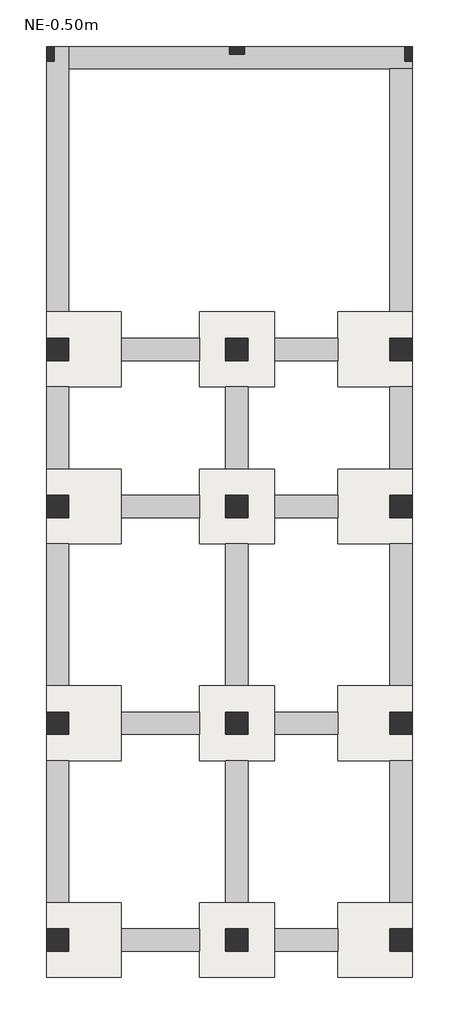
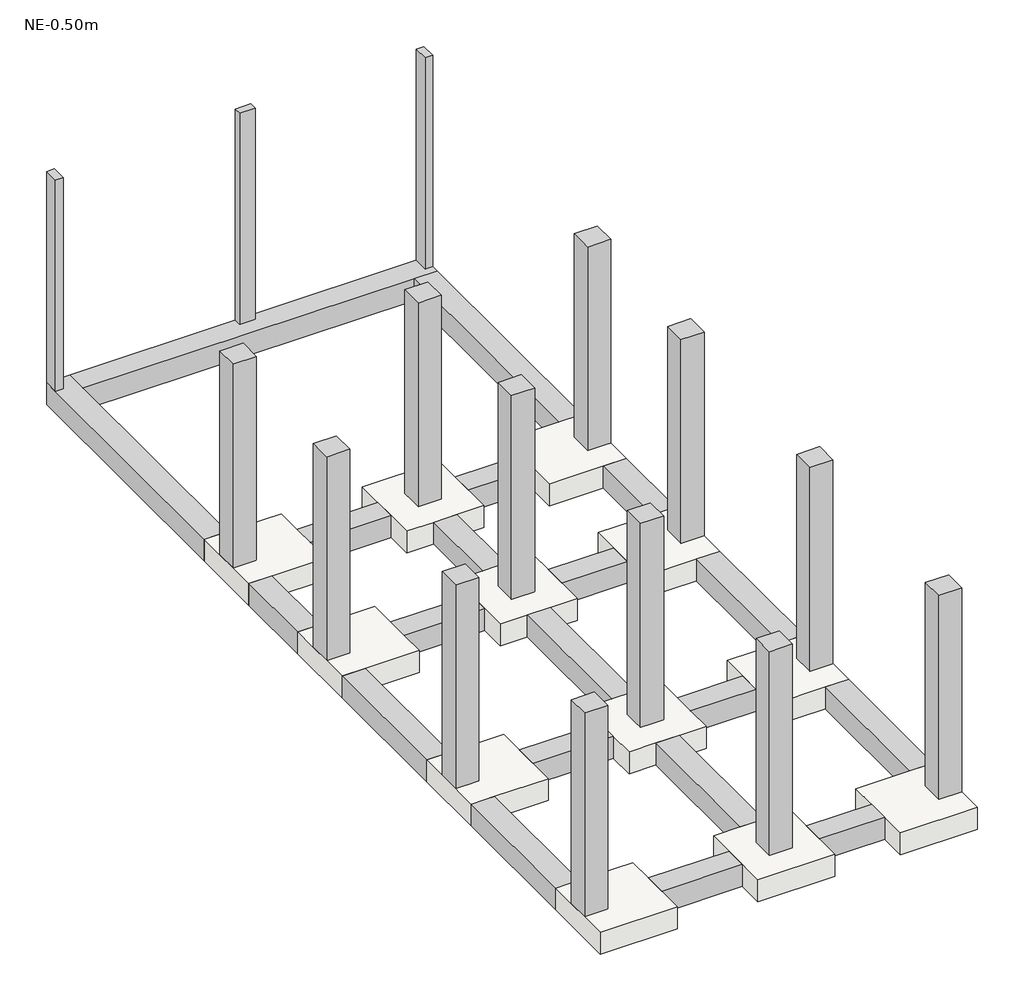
# One storey: 20 beams, 15 columns, 12 slabs.
"""IFC4 building model written with IfcOpenShell, lengths in millimetres."""

from ifc_helpers import new_model, si_unit, frame, origin, place, context, project, spatial, polyline, outline, extrude, faceted_brep, element, save

model = new_model("IFC4")

# Units and contexts
model_context = context("Model", 3, world=origin())
ifc_project = project(units=[si_unit("LENGTHUNIT", "METRE", prefix="MILLI")], contexts=[model_context])

# Site, building, storey
site = spatial("IfcSite", under=ifc_project)
building = spatial("IfcBuilding", under=site)
storey = spatial("IfcBuildingStorey", under=building, Name="NE-0.50m", Elevation=-500.0)

# Beams
placement = place(None, origin())
element("IfcBeam", 1, ObjectType="Hormigón-Viga rectangular : VC (0.30x0.30m)", at=placement, inside=storey, context=model_context, shape_type="SweptSolid", body=[
    extrude(outline(polyline([(1352.3188918, 412.8132138), (1652.3188918, 412.8132138), (1652.3188918, -687.1867862), (1352.3188918, -687.1867862), (1352.3188918, 412.8132138)])), frame((0.0, 0.0, -800.0), z_axis=(0.0, 0.0, 1.0), x_axis=(1.0, 0.0, 0.0)), (0.0, 0.0, 1.0), 300.0),
])
element("IfcBeam", 2, ObjectType="Hormigón-Viga rectangular : VC (0.30x0.30m)", at=placement, inside=storey, context=model_context, shape_type="SweptSolid", body=[
    extrude(outline(polyline([(1652.3188918, -3587.1867862), (1352.3188918, -3587.1867862), (1352.3188918, -1687.1867862), (1652.3188918, -1687.1867862), (1652.3188918, -3587.1867862)])), frame((0.0, 0.0, -800.0), z_axis=(0.0, 0.0, 1.0), x_axis=(1.0, 0.0, 0.0)), (0.0, 0.0, 1.0), 300.0),
])
element("IfcBeam", 3, ObjectType="Hormigón-Viga rectangular : VC (0.30x0.30m)", at=placement, inside=storey, context=model_context, shape_type="SweptSolid", body=[
    extrude(outline(polyline([(1652.3188918, -6487.1867862), (1352.3188918, -6487.1867862), (1352.3188918, -4587.1867862), (1652.3188918, -4587.1867862), (1652.3188918, -6487.1867862)])), frame((0.0, 0.0, -800.0), z_axis=(0.0, 0.0, 1.0), x_axis=(1.0, 0.0, 0.0)), (0.0, 0.0, 1.0), 300.0),
])
element("IfcBeam", 4, ObjectType="Hormigón-Viga rectangular : VC (0.30x0.30m)", at=placement, inside=storey, context=model_context, shape_type="SweptSolid", body=[
    extrude(outline(polyline([(-1047.6811082, 412.8132138), (-747.6811082, 412.8132138), (-747.6811082, -687.1867862), (-1047.6811082, -687.1867862), (-1047.6811082, 412.8132138)])), frame((0.0, 0.0, -800.0), z_axis=(0.0, 0.0, 1.0), x_axis=(1.0, 0.0, 0.0)), (0.0, 0.0, 1.0), 300.0),
])
element("IfcBeam", 5, ObjectType="Hormigón-Viga rectangular : VC (0.30x0.30m)", at=placement, inside=storey, context=model_context, shape_type="SweptSolid", body=[
    extrude(outline(polyline([(-747.6811082, -3587.1867862), (-1047.6811082, -3587.1867862), (-1047.6811082, -1687.1867862), (-747.6811082, -1687.1867862), (-747.6811082, -3587.1867862)])), frame((0.0, 0.0, -800.0), z_axis=(0.0, 0.0, 1.0), x_axis=(1.0, 0.0, 0.0)), (0.0, 0.0, 1.0), 300.0),
])
element("IfcBeam", 6, ObjectType="Hormigón-Viga rectangular : VC (0.30x0.30m)", at=placement, inside=storey, context=model_context, shape_type="SweptSolid", body=[
    extrude(outline(polyline([(-747.6811082, -6487.1867862), (-1047.6811082, -6487.1867862), (-1047.6811082, -4587.1867862), (-747.6811082, -4587.1867862), (-747.6811082, -6487.1867862)])), frame((0.0, 0.0, -800.0), z_axis=(0.0, 0.0, 1.0), x_axis=(1.0, 0.0, 0.0)), (0.0, 0.0, 1.0), 300.0),
])
element("IfcBeam", 7, ObjectType="Hormigón-Viga rectangular : VC (0.30x0.30m)", at=placement, inside=storey, context=model_context, shape_type="SweptSolid", body=[
    extrude(outline(polyline([(3852.3188918, -687.1867862), (3552.3188918, -687.1867862), (3552.3188918, 412.8132138), (3852.3188918, 412.8132138), (3852.3188918, -687.1867862)])), frame((0.0, 0.0, -800.0), z_axis=(0.0, 0.0, 1.0), x_axis=(1.0, 0.0, 0.0)), (0.0, 0.0, 1.0), 300.0),
])
element("IfcBeam", 8, ObjectType="Hormigón-Viga rectangular : VC (0.30x0.30m)", at=placement, inside=storey, context=model_context, shape_type="SweptSolid", body=[
    extrude(outline(polyline([(3852.3188918, -3587.1867862), (3552.3188918, -3587.1867862), (3552.3188918, -1687.1867862), (3852.3188918, -1687.1867862), (3852.3188918, -3587.1867862)])), frame((0.0, 0.0, -800.0), z_axis=(0.0, 0.0, 1.0), x_axis=(1.0, 0.0, 0.0)), (0.0, 0.0, 1.0), 300.0),
])
element("IfcBeam", 9, ObjectType="Hormigón-Viga rectangular : VC (0.30x0.30m)", at=placement, inside=storey, context=model_context, shape_type="SweptSolid", body=[
    extrude(outline(polyline([(3852.3188918, -6487.1867862), (3552.3188918, -6487.1867862), (3552.3188918, -4587.1867862), (3852.3188918, -4587.1867862), (3852.3188918, -6487.1867862)])), frame((0.0, 0.0, -800.0), z_axis=(0.0, 0.0, 1.0), x_axis=(1.0, 0.0, 0.0)), (0.0, 0.0, 1.0), 300.0),
])
element("IfcBeam", 10, ObjectType="Hormigón-Viga rectangular : VC (0.30x0.30m)", at=placement, inside=storey, context=model_context, shape_type="SweptSolid", body=[
    extrude(outline(polyline([(-47.6811082, -7137.1867862), (-47.6811082, -6837.1867862), (1002.3188918, -6837.1867862), (1002.3188918, -7137.1867862), (-47.6811082, -7137.1867862)])), frame((0.0, 0.0, -800.0), z_axis=(0.0, 0.0, 1.0), x_axis=(1.0, 0.0, 0.0)), (0.0, 0.0, 1.0), 300.0),
])
element("IfcBeam", 11, ObjectType="Hormigón-Viga rectangular : VC (0.30x0.30m)", at=placement, inside=storey, context=model_context, shape_type="SweptSolid", body=[
    extrude(outline(polyline([(2002.3188918, -7137.1867862), (2002.3188918, -6837.1867862), (2852.3188918, -6837.1867862), (2852.3188918, -7137.1867862), (2002.3188918, -7137.1867862)])), frame((0.0, 0.0, -800.0), z_axis=(0.0, 0.0, 1.0), x_axis=(1.0, 0.0, 0.0)), (0.0, 0.0, 1.0), 300.0),
])
element("IfcBeam", 12, ObjectType="Hormigón-Viga rectangular : VC (0.30x0.30m)", at=placement, inside=storey, context=model_context, shape_type="SweptSolid", body=[
    extrude(outline(polyline([(-47.6811082, -4237.1867862), (-47.6811082, -3937.1867862), (1002.3188918, -3937.1867862), (1002.3188918, -4237.1867862), (-47.6811082, -4237.1867862)])), frame((0.0, 0.0, -800.0), z_axis=(0.0, 0.0, 1.0), x_axis=(1.0, 0.0, 0.0)), (0.0, 0.0, 1.0), 300.0),
])
element("IfcBeam", 13, ObjectType="Hormigón-Viga rectangular : VC (0.30x0.30m)", at=placement, inside=storey, context=model_context, shape_type="SweptSolid", body=[
    extrude(outline(polyline([(2002.3188918, -4237.1867862), (2002.3188918, -3937.1867862), (2852.3188918, -3937.1867862), (2852.3188918, -4237.1867862), (2002.3188918, -4237.1867862)])), frame((0.0, 0.0, -800.0), z_axis=(0.0, 0.0, 1.0), x_axis=(1.0, 0.0, 0.0)), (0.0, 0.0, 1.0), 300.0),
])
element("IfcBeam", 14, ObjectType="Hormigón-Viga rectangular : VC (0.30x0.30m)", at=placement, inside=storey, context=model_context, shape_type="SweptSolid", body=[
    extrude(outline(polyline([(-47.6811082, -1337.1867862), (-47.6811082, -1037.1867862), (1002.3188918, -1037.1867862), (1002.3188918, -1337.1867862), (-47.6811082, -1337.1867862)])), frame((0.0, 0.0, -800.0), z_axis=(0.0, 0.0, 1.0), x_axis=(1.0, 0.0, 0.0)), (0.0, 0.0, 1.0), 300.0),
])
element("IfcBeam", 15, ObjectType="Hormigón-Viga rectangular : VC (0.30x0.30m)", at=placement, inside=storey, context=model_context, shape_type="SweptSolid", body=[
    extrude(outline(polyline([(2852.3188918, -1037.1867862), (2852.3188918, -1337.1867862), (2002.3188918, -1337.1867862), (2002.3188918, -1037.1867862), (2852.3188918, -1037.1867862)])), frame((0.0, 0.0, -800.0), z_axis=(0.0, 0.0, 1.0), x_axis=(1.0, 0.0, 0.0)), (0.0, 0.0, 1.0), 300.0),
])
element("IfcBeam", 16, ObjectType="Hormigón-Viga rectangular : VC (0.30x0.30m)", at=placement, inside=storey, context=model_context, shape_type="SweptSolid", body=[
    extrude(outline(polyline([(1002.3188918, 1062.8132138), (1002.3188918, 762.8132138), (-47.6811082, 762.8132138), (-47.6811082, 1062.8132138), (1002.3188918, 1062.8132138)])), frame((0.0, 0.0, -800.0), z_axis=(0.0, 0.0, 1.0), x_axis=(1.0, 0.0, 0.0)), (0.0, 0.0, 1.0), 300.0),
])
element("IfcBeam", 17, ObjectType="Hormigón-Viga rectangular : VC (0.30x0.30m)", at=placement, inside=storey, context=model_context, shape_type="SweptSolid", body=[
    extrude(outline(polyline([(2852.3188918, 1062.8132138), (2852.3188918, 762.8132138), (2002.3188918, 762.8132138), (2002.3188918, 1062.8132138), (2852.3188918, 1062.8132138)])), frame((0.0, 0.0, -800.0), z_axis=(0.0, 0.0, 1.0), x_axis=(1.0, 0.0, 0.0)), (0.0, 0.0, 1.0), 300.0),
])
element("IfcBeam", 18, ObjectType="Hormigón-Viga rectangular : VC (0.30x0.30m)", at=placement, inside=storey, context=model_context, shape_type="Brep", body=[
    faceted_brep([(-747.6811082, 4962.8132138, -500.0), (-947.6811082, 4962.8132138, -500.0), (-1047.6811082, 4962.8132138, -500.0), (-1047.6811082, 4762.8132138, -500.0), (-1047.6811082, 1412.8132138, -500.0), (-747.6811082, 1412.8132138, -500.0), (-747.6811082, 4662.8132138, -500.0), (-747.6811082, 4962.8132138, -800.0), (-747.6811082, 1412.8132138, -800.0), (-747.6811082, 4662.8132138, -800.0), (-1047.6811082, 4962.8132138, -800.0), (-1047.6811082, 1412.8132138, -800.0)], [[[0, 1, 2, 3, 4, 5, 6]], [[7, 0, 6, 5, 8, 9]], [[10, 7, 9, 8, 11]], [[2, 10, 11, 4, 3]], [[5, 4, 11, 8]], [[2, 1, 0, 7, 10]]]),
])
element("IfcBeam", 19, ObjectType="Hormigón-Viga rectangular : VC (0.30x0.30m)", at=placement, inside=storey, context=model_context, shape_type="Brep", body=[
    faceted_brep([(3852.3188918, 4662.8132138, -500.0), (3852.3188918, 4762.8132138, -500.0), (3852.3188918, 4962.8132138, -500.0), (3752.3188918, 4962.8132138, -500.0), (1602.3188918, 4962.8132138, -500.0), (1402.3188918, 4962.8132138, -500.0), (-747.6811082, 4962.8132138, -500.0), (-747.6811082, 4662.8132138, -500.0), (3552.3188918, 4662.8132138, -500.0), (3852.3188918, 4662.8132138, -800.0), (-747.6811082, 4662.8132138, -800.0), (3552.3188918, 4662.8132138, -800.0), (3852.3188918, 4962.8132138, -800.0), (-747.6811082, 4962.8132138, -800.0)], [[[0, 1, 2, 3, 4, 5, 6, 7, 8]], [[9, 0, 8, 7, 10, 11]], [[12, 9, 11, 10, 13]], [[2, 12, 13, 6, 5, 4, 3]], [[7, 6, 13, 10]], [[2, 1, 0, 9, 12]]]),
])
element("IfcBeam", 20, ObjectType="Hormigón-Viga rectangular : VC (0.30x0.30m)", at=placement, inside=storey, context=model_context, shape_type="SweptSolid", body=[
    extrude(outline(polyline([(3552.3188918, 4662.8132138), (3852.3188918, 4662.8132138), (3852.3188918, 1412.8132138), (3552.3188918, 1412.8132138), (3552.3188918, 4662.8132138)])), frame((0.0, 0.0, -800.0), z_axis=(0.0, 0.0, 1.0), x_axis=(1.0, 0.0, 0.0)), (0.0, 0.0, 1.0), 300.0),
])

# Columns
element("IfcColumn", 21, ObjectType="Hormigón-Rectangular-Pilar : C1 (0.30x0.30m)", at=placement, inside=storey, context=model_context, shape_type="Brep", body=[
    faceted_brep([(1652.3188918, 1062.8132138, -500.0), (1652.3188918, 762.8132138, -500.0), (1352.3188918, 762.8132138, -500.0), (1352.3188918, 1062.8132138, -500.0), (1652.3188918, 1062.8132138, -100.0), (1652.3188918, 1062.8132138, 0.0), (1652.3188918, 1062.8132138, 2300.0), (1652.3188918, 762.8132138, 2300.0), (1652.3188918, 762.8132138, 0.0), (1652.3188918, 762.8132138, -100.0), (1352.3188918, 762.8132138, 2300.0), (1352.3188918, 762.8132138, 0.0), (1352.3188918, 762.8132138, -100.0), (1352.3188918, 1062.8132138, 2300.0), (1352.3188918, 1062.8132138, 0.0), (1352.3188918, 1062.8132138, -100.0)], [[[0, 1, 2, 3]], [[1, 0, 4, 5, 6, 7, 8, 9]], [[2, 1, 9, 8, 7, 10, 11, 12]], [[3, 2, 12, 11, 10, 13, 14, 15]], [[0, 3, 15, 14, 13, 6, 5, 4]], [[7, 6, 13, 10]]]),
])
element("IfcColumn", 22, ObjectType="Hormigón-Rectangular-Pilar : C1 (0.30x0.30m)", at=placement, inside=storey, context=model_context, shape_type="Brep", body=[
    faceted_brep([(3852.3188918, 1062.8132138, -500.0), (3852.3188918, 762.8132138, -500.0), (3552.3188918, 762.8132138, -500.0), (3552.3188918, 1062.8132138, -500.0), (3852.3188918, 1062.8132138, -100.0), (3852.3188918, 1062.8132138, 0.0), (3852.3188918, 1062.8132138, 2300.0), (3852.3188918, 762.8132138, 2300.0), (3852.3188918, 762.8132138, 0.0), (3852.3188918, 762.8132138, -100.0), (3552.3188918, 762.8132138, 2300.0), (3552.3188918, 762.8132138, 0.0), (3552.3188918, 762.8132138, -100.0), (3552.3188918, 1062.8132138, 2300.0), (3552.3188918, 1062.8132138, 0.0), (3552.3188918, 1062.8132138, -100.0)], [[[0, 1, 2, 3]], [[1, 0, 4, 5, 6, 7, 8, 9]], [[2, 1, 9, 8, 7, 10, 11, 12]], [[3, 2, 12, 11, 10, 13, 14, 15]], [[0, 3, 15, 14, 13, 6, 5, 4]], [[7, 6, 13, 10]]]),
])
element("IfcColumn", 23, ObjectType="Hormigón-Rectangular-Pilar : C1 (0.30x0.30m)", at=placement, inside=storey, context=model_context, shape_type="Brep", body=[
    faceted_brep([(-747.6811082, 1062.8132138, -500.0), (-747.6811082, 762.8132138, -500.0), (-1047.6811082, 762.8132138, -500.0), (-1047.6811082, 1062.8132138, -500.0), (-747.6811082, 1062.8132138, -100.0), (-747.6811082, 1062.8132138, 0.0), (-747.6811082, 1062.8132138, 2300.0), (-747.6811082, 762.8132138, 2300.0), (-747.6811082, 762.8132138, 0.0), (-747.6811082, 762.8132138, -100.0), (-1047.6811082, 762.8132138, 2300.0), (-1047.6811082, 762.8132138, 0.0), (-1047.6811082, 762.8132138, -100.0), (-1047.6811082, 1062.8132138, 2300.0), (-1047.6811082, 1062.8132138, 0.0), (-1047.6811082, 1062.8132138, -100.0)], [[[0, 1, 2, 3]], [[1, 0, 4, 5, 6, 7, 8, 9]], [[2, 1, 9, 8, 7, 10, 11, 12]], [[3, 2, 12, 11, 10, 13, 14, 15]], [[0, 3, 15, 14, 13, 6, 5, 4]], [[7, 6, 13, 10]]]),
])
element("IfcColumn", 24, ObjectType="Hormigón-Rectangular-Pilar : C1 (0.30x0.30m)", at=placement, inside=storey, context=model_context, shape_type="Brep", body=[
    faceted_brep([(1652.3188918, -1037.1867862, -500.0), (1652.3188918, -1337.1867862, -500.0), (1352.3188918, -1337.1867862, -500.0), (1352.3188918, -1037.1867862, -500.0), (1652.3188918, -1037.1867862, -100.0), (1652.3188918, -1037.1867862, 0.0), (1652.3188918, -1037.1867862, 2300.0), (1652.3188918, -1337.1867862, 2300.0), (1652.3188918, -1337.1867862, 0.0), (1652.3188918, -1337.1867862, -100.0), (1352.3188918, -1337.1867862, 2300.0), (1352.3188918, -1337.1867862, 0.0), (1352.3188918, -1337.1867862, -100.0), (1352.3188918, -1037.1867862, 2300.0), (1352.3188918, -1037.1867862, 0.0), (1352.3188918, -1037.1867862, -100.0)], [[[0, 1, 2, 3]], [[1, 0, 4, 5, 6, 7, 8, 9]], [[2, 1, 9, 8, 7, 10, 11, 12]], [[3, 2, 12, 11, 10, 13, 14, 15]], [[0, 3, 15, 14, 13, 6, 5, 4]], [[7, 6, 13, 10]]]),
])
element("IfcColumn", 25, ObjectType="Hormigón-Rectangular-Pilar : C1 (0.30x0.30m)", at=placement, inside=storey, context=model_context, shape_type="Brep", body=[
    faceted_brep([(3852.3188918, -1037.1867862, -500.0), (3852.3188918, -1337.1867862, -500.0), (3552.3188918, -1337.1867862, -500.0), (3552.3188918, -1037.1867862, -500.0), (3852.3188918, -1037.1867862, -100.0), (3852.3188918, -1037.1867862, 0.0), (3852.3188918, -1037.1867862, 2300.0), (3852.3188918, -1337.1867862, 2300.0), (3852.3188918, -1337.1867862, 0.0), (3852.3188918, -1337.1867862, -100.0), (3552.3188918, -1337.1867862, 2300.0), (3552.3188918, -1337.1867862, 0.0), (3552.3188918, -1337.1867862, -100.0), (3552.3188918, -1037.1867862, 2300.0), (3552.3188918, -1037.1867862, 0.0), (3552.3188918, -1037.1867862, -100.0)], [[[0, 1, 2, 3]], [[1, 0, 4, 5, 6, 7, 8, 9]], [[2, 1, 9, 8, 7, 10, 11, 12]], [[3, 2, 12, 11, 10, 13, 14, 15]], [[0, 3, 15, 14, 13, 6, 5, 4]], [[7, 6, 13, 10]]]),
])
element("IfcColumn", 26, ObjectType="Hormigón-Rectangular-Pilar : C1 (0.30x0.30m)", at=placement, inside=storey, context=model_context, shape_type="Brep", body=[
    faceted_brep([(-747.6811082, -1037.1867862, -500.0), (-747.6811082, -1337.1867862, -500.0), (-1047.6811082, -1337.1867862, -500.0), (-1047.6811082, -1037.1867862, -500.0), (-747.6811082, -1037.1867862, -100.0), (-747.6811082, -1037.1867862, 0.0), (-747.6811082, -1037.1867862, 2300.0), (-747.6811082, -1337.1867862, 2300.0), (-747.6811082, -1337.1867862, 0.0), (-747.6811082, -1337.1867862, -100.0), (-1047.6811082, -1337.1867862, 2300.0), (-1047.6811082, -1337.1867862, 0.0), (-1047.6811082, -1337.1867862, -100.0), (-1047.6811082, -1037.1867862, 2300.0), (-1047.6811082, -1037.1867862, 0.0), (-1047.6811082, -1037.1867862, -100.0)], [[[0, 1, 2, 3]], [[1, 0, 4, 5, 6, 7, 8, 9]], [[2, 1, 9, 8, 7, 10, 11, 12]], [[3, 2, 12, 11, 10, 13, 14, 15]], [[0, 3, 15, 14, 13, 6, 5, 4]], [[7, 6, 13, 10]]]),
])
element("IfcColumn", 27, ObjectType="Hormigón-Rectangular-Pilar : C1 (0.30x0.30m)", at=placement, inside=storey, context=model_context, shape_type="Brep", body=[
    faceted_brep([(1652.3188918, -3937.1867862, -500.0), (1652.3188918, -4237.1867862, -500.0), (1352.3188918, -4237.1867862, -500.0), (1352.3188918, -3937.1867862, -500.0), (1652.3188918, -3937.1867862, -100.0), (1652.3188918, -3937.1867862, 0.0), (1652.3188918, -3937.1867862, 2300.0), (1652.3188918, -4237.1867862, 2300.0), (1652.3188918, -4237.1867862, 0.0), (1652.3188918, -4237.1867862, -100.0), (1352.3188918, -4237.1867862, 2300.0), (1352.3188918, -4237.1867862, 0.0), (1352.3188918, -4237.1867862, -100.0), (1352.3188918, -3937.1867862, 2300.0), (1352.3188918, -3937.1867862, 0.0), (1352.3188918, -3937.1867862, -100.0)], [[[0, 1, 2, 3]], [[1, 0, 4, 5, 6, 7, 8, 9]], [[2, 1, 9, 8, 7, 10, 11, 12]], [[3, 2, 12, 11, 10, 13, 14, 15]], [[0, 3, 15, 14, 13, 6, 5, 4]], [[7, 6, 13, 10]]]),
])
element("IfcColumn", 28, ObjectType="Hormigón-Rectangular-Pilar : C1 (0.30x0.30m)", at=placement, inside=storey, context=model_context, shape_type="Brep", body=[
    faceted_brep([(3852.3188918, -3937.1867862, -500.0), (3852.3188918, -4237.1867862, -500.0), (3552.3188918, -4237.1867862, -500.0), (3552.3188918, -3937.1867862, -500.0), (3852.3188918, -3937.1867862, -100.0), (3852.3188918, -3937.1867862, 0.0), (3852.3188918, -3937.1867862, 2300.0), (3852.3188918, -4237.1867862, 2300.0), (3852.3188918, -4237.1867862, 0.0), (3852.3188918, -4237.1867862, -100.0), (3552.3188918, -4237.1867862, 2300.0), (3552.3188918, -4237.1867862, 0.0), (3552.3188918, -4237.1867862, -100.0), (3552.3188918, -3937.1867862, 2300.0), (3552.3188918, -3937.1867862, 0.0), (3552.3188918, -3937.1867862, -100.0)], [[[0, 1, 2, 3]], [[1, 0, 4, 5, 6, 7, 8, 9]], [[2, 1, 9, 8, 7, 10, 11, 12]], [[3, 2, 12, 11, 10, 13, 14, 15]], [[0, 3, 15, 14, 13, 6, 5, 4]], [[7, 6, 13, 10]]]),
])
element("IfcColumn", 29, ObjectType="Hormigón-Rectangular-Pilar : C1 (0.30x0.30m)", at=placement, inside=storey, context=model_context, shape_type="Brep", body=[
    faceted_brep([(-747.6811082, -3937.1867862, -500.0), (-747.6811082, -4237.1867862, -500.0), (-1047.6811082, -4237.1867862, -500.0), (-1047.6811082, -3937.1867862, -500.0), (-747.6811082, -3937.1867862, -100.0), (-747.6811082, -3937.1867862, 0.0), (-747.6811082, -3937.1867862, 2300.0), (-747.6811082, -4237.1867862, 2300.0), (-747.6811082, -4237.1867862, 0.0), (-747.6811082, -4237.1867862, -100.0), (-1047.6811082, -4237.1867862, 2300.0), (-1047.6811082, -4237.1867862, 0.0), (-1047.6811082, -4237.1867862, -100.0), (-1047.6811082, -3937.1867862, 2300.0), (-1047.6811082, -3937.1867862, 0.0), (-1047.6811082, -3937.1867862, -100.0)], [[[0, 1, 2, 3]], [[1, 0, 4, 5, 6, 7, 8, 9]], [[2, 1, 9, 8, 7, 10, 11, 12]], [[3, 2, 12, 11, 10, 13, 14, 15]], [[0, 3, 15, 14, 13, 6, 5, 4]], [[7, 6, 13, 10]]]),
])
element("IfcColumn", 30, ObjectType="Hormigón-Rectangular-Pilar : C1 (0.30x0.30m)", at=placement, inside=storey, context=model_context, shape_type="Brep", body=[
    faceted_brep([(1652.3188918, -6837.1867862, -500.0), (1652.3188918, -7137.1867862, -500.0), (1352.3188918, -7137.1867862, -500.0), (1352.3188918, -6837.1867862, -500.0), (1652.3188918, -6837.1867862, -100.0), (1652.3188918, -6837.1867862, 0.0), (1652.3188918, -6837.1867862, 2300.0), (1652.3188918, -7137.1867862, 2300.0), (1652.3188918, -7137.1867862, 0.0), (1652.3188918, -7137.1867862, -100.0), (1352.3188918, -7137.1867862, 2300.0), (1352.3188918, -7137.1867862, 0.0), (1352.3188918, -7137.1867862, -100.0), (1352.3188918, -6837.1867862, 2300.0), (1352.3188918, -6837.1867862, 0.0), (1352.3188918, -6837.1867862, -100.0)], [[[0, 1, 2, 3]], [[1, 0, 4, 5, 6, 7, 8, 9]], [[2, 1, 9, 8, 7, 10, 11, 12]], [[3, 2, 12, 11, 10, 13, 14, 15]], [[0, 3, 15, 14, 13, 6, 5, 4]], [[7, 6, 13, 10]]]),
])
element("IfcColumn", 31, ObjectType="Hormigón-Rectangular-Pilar : C1 (0.30x0.30m)", at=placement, inside=storey, context=model_context, shape_type="Brep", body=[
    faceted_brep([(3852.3188918, -6837.1867862, -500.0), (3852.3188918, -7137.1867862, -500.0), (3552.3188918, -7137.1867862, -500.0), (3552.3188918, -6837.1867862, -500.0), (3852.3188918, -6837.1867862, -100.0), (3852.3188918, -6837.1867862, 0.0), (3852.3188918, -6837.1867862, 2300.0), (3852.3188918, -7137.1867862, 2300.0), (3552.3188918, -7137.1867862, 2300.0), (3552.3188918, -7137.1867862, 0.0), (3552.3188918, -7137.1867862, -100.0), (3552.3188918, -6837.1867862, 2300.0), (3552.3188918, -6837.1867862, 0.0), (3552.3188918, -6837.1867862, -100.0)], [[[0, 1, 2, 3]], [[1, 0, 4, 5, 6, 7]], [[2, 1, 7, 8, 9, 10]], [[3, 2, 10, 9, 8, 11, 12, 13]], [[0, 3, 13, 12, 11, 6, 5, 4]], [[7, 6, 11, 8]]]),
])
element("IfcColumn", 32, ObjectType="Hormigón-Rectangular-Pilar : C1 (0.30x0.30m)", at=placement, inside=storey, context=model_context, shape_type="Brep", body=[
    faceted_brep([(-747.6811082, -6837.1867862, -500.0), (-747.6811082, -7137.1867862, -500.0), (-1047.6811082, -7137.1867862, -500.0), (-1047.6811082, -6837.1867862, -500.0), (-747.6811082, -6837.1867862, -100.0), (-747.6811082, -6837.1867862, 0.0), (-747.6811082, -6837.1867862, 2300.0), (-747.6811082, -7137.1867862, 2300.0), (-747.6811082, -7137.1867862, 0.0), (-747.6811082, -7137.1867862, -100.0), (-1047.6811082, -7137.1867862, 2300.0), (-1047.6811082, -6837.1867862, 2300.0), (-1047.6811082, -6837.1867862, 0.0), (-1047.6811082, -6837.1867862, -100.0)], [[[0, 1, 2, 3]], [[1, 0, 4, 5, 6, 7, 8, 9]], [[2, 1, 9, 8, 7, 10]], [[3, 2, 10, 11, 12, 13]], [[0, 3, 13, 12, 11, 6, 5, 4]], [[7, 6, 11, 10]]]),
])
element("IfcColumn", 33, ObjectType="Hormigón-Rectangular-Pilar : C2 (0.10x0.20m)", at=placement, inside=storey, context=model_context, shape_type="Brep", body=[
    faceted_brep([(-947.6811082, 4962.8132138, -500.0), (-947.6811082, 4762.8132138, -500.0), (-1047.6811082, 4762.8132138, -500.0), (-1047.6811082, 4962.8132138, -500.0), (-947.6811082, 4962.8132138, -100.0), (-947.6811082, 4962.8132138, 0.0), (-947.6811082, 4962.8132138, 2400.0), (-947.6811082, 4762.8132138, 2400.0), (-947.6811082, 4762.8132138, 0.0), (-947.6811082, 4762.8132138, -100.0), (-1047.6811082, 4762.8132138, 2400.0), (-1047.6811082, 4762.8132138, 0.0), (-1047.6811082, 4762.8132138, -100.0), (-1047.6811082, 4962.8132138, 2400.0)], [[[0, 1, 2, 3]], [[1, 0, 4, 5, 6, 7, 8, 9]], [[2, 1, 9, 8, 7, 10, 11, 12]], [[3, 2, 12, 11, 10, 13]], [[0, 3, 13, 6, 5, 4]], [[7, 6, 13, 10]]]),
])
element("IfcColumn", 34, ObjectType="Hormigón-Rectangular-Pilar : C2 (0.10x0.20m)", at=placement, inside=storey, context=model_context, shape_type="Brep", body=[
    faceted_brep([(3852.3188918, 4962.8132138, -500.0), (3852.3188918, 4762.8132138, -500.0), (3752.3188918, 4762.8132138, -500.0), (3752.3188918, 4962.8132138, -500.0), (3852.3188918, 4962.8132138, 2400.0), (3852.3188918, 4762.8132138, 2400.0), (3852.3188918, 4762.8132138, 0.0), (3852.3188918, 4762.8132138, -100.0), (3752.3188918, 4762.8132138, 2400.0), (3752.3188918, 4762.8132138, 0.0), (3752.3188918, 4762.8132138, -100.0), (3752.3188918, 4962.8132138, 2400.0), (3752.3188918, 4962.8132138, 0.0), (3752.3188918, 4962.8132138, -100.0)], [[[0, 1, 2, 3]], [[1, 0, 4, 5, 6, 7]], [[2, 1, 7, 6, 5, 8, 9, 10]], [[3, 2, 10, 9, 8, 11, 12, 13]], [[0, 3, 13, 12, 11, 4]], [[5, 4, 11, 8]]]),
])
element("IfcColumn", 35, ObjectType="Hormigón-Rectangular-Pilar : C2 (0.10x0.20m)", at=placement, inside=storey, context=model_context, shape_type="Brep", body=[
    faceted_brep([(1402.3188918, 4962.8132138, -500.0), (1602.3188918, 4962.8132138, -500.0), (1602.3188918, 4862.8132138, -500.0), (1402.3188918, 4862.8132138, -500.0), (1402.3188918, 4962.8132138, -100.0), (1402.3188918, 4962.8132138, 0.0), (1402.3188918, 4962.8132138, 2400.0), (1602.3188918, 4962.8132138, 2400.0), (1602.3188918, 4962.8132138, 0.0), (1602.3188918, 4962.8132138, -100.0), (1602.3188918, 4862.8132138, 2400.0), (1602.3188918, 4862.8132138, 0.0), (1602.3188918, 4862.8132138, -100.0), (1402.3188918, 4862.8132138, 2400.0), (1402.3188918, 4862.8132138, 0.0), (1402.3188918, 4862.8132138, -100.0)], [[[0, 1, 2, 3]], [[1, 0, 4, 5, 6, 7, 8, 9]], [[2, 1, 9, 8, 7, 10, 11, 12]], [[3, 2, 12, 11, 10, 13, 14, 15]], [[0, 3, 15, 14, 13, 6, 5, 4]], [[7, 6, 13, 10]]]),
])

# Slabs
element("IfcSlab", 36, ObjectType="M_Zapata-Rectangular : Z1 (1.00x1.00x0.3m)", at=placement, inside=storey, context=model_context, shape_type="Brep", body=[
    faceted_brep([(-47.6811082, -6487.1867862, -500.0), (-747.6811082, -6487.1867862, -500.0), (-1047.6811082, -6487.1867862, -500.0), (-1047.6811082, -7487.1867862, -500.0), (-47.6811082, -7487.1867862, -500.0), (-47.6811082, -7137.1867862, -500.0), (-47.6811082, -6837.1867862, -500.0), (-47.6811082, -6487.1867862, -800.0), (-47.6811082, -6837.1867862, -800.0), (-47.6811082, -7137.1867862, -800.0), (-47.6811082, -7487.1867862, -800.0), (-1047.6811082, -7487.1867862, -800.0), (-1047.6811082, -6487.1867862, -800.0), (-747.6811082, -6487.1867862, -800.0)], [[[0, 1, 2, 3, 4, 5, 6]], [[7, 8, 9, 10, 11, 12, 13]], [[2, 1, 0, 7, 13, 12]], [[3, 2, 12, 11]], [[4, 3, 11, 10]], [[0, 6, 5, 4, 10, 9, 8, 7]]]),
])
element("IfcSlab", 37, ObjectType="M_Zapata-Rectangular : Z1 (1.00x1.00x0.3m)", at=placement, inside=storey, context=model_context, shape_type="Brep", body=[
    faceted_brep([(-47.6811082, -3587.1867862, -500.0), (-747.6811082, -3587.1867862, -500.0), (-1047.6811082, -3587.1867862, -500.0), (-1047.6811082, -4587.1867862, -500.0), (-747.6811082, -4587.1867862, -500.0), (-47.6811082, -4587.1867862, -500.0), (-47.6811082, -4237.1867862, -500.0), (-47.6811082, -3937.1867862, -500.0), (-47.6811082, -3587.1867862, -800.0), (-47.6811082, -3937.1867862, -800.0), (-47.6811082, -4237.1867862, -800.0), (-47.6811082, -4587.1867862, -800.0), (-747.6811082, -4587.1867862, -800.0), (-1047.6811082, -4587.1867862, -800.0), (-1047.6811082, -3587.1867862, -800.0), (-747.6811082, -3587.1867862, -800.0)], [[[0, 1, 2, 3, 4, 5, 6, 7]], [[8, 9, 10, 11, 12, 13, 14, 15]], [[2, 1, 0, 8, 15, 14]], [[3, 2, 14, 13]], [[5, 4, 3, 13, 12, 11]], [[0, 7, 6, 5, 11, 10, 9, 8]]]),
])
element("IfcSlab", 38, ObjectType="M_Zapata-Rectangular : Z1 (1.00x1.00x0.3m)", at=placement, inside=storey, context=model_context, shape_type="Brep", body=[
    faceted_brep([(2002.3188918, -3587.1867862, -500.0), (1652.3188918, -3587.1867862, -500.0), (1352.3188918, -3587.1867862, -500.0), (1002.3188918, -3587.1867862, -500.0), (1002.3188918, -3937.1867862, -500.0), (1002.3188918, -4237.1867862, -500.0), (1002.3188918, -4587.1867862, -500.0), (1352.3188918, -4587.1867862, -500.0), (1652.3188918, -4587.1867862, -500.0), (2002.3188918, -4587.1867862, -500.0), (2002.3188918, -4237.1867862, -500.0), (2002.3188918, -3937.1867862, -500.0), (2002.3188918, -3587.1867862, -800.0), (2002.3188918, -3937.1867862, -800.0), (2002.3188918, -4237.1867862, -800.0), (2002.3188918, -4587.1867862, -800.0), (1652.3188918, -4587.1867862, -800.0), (1352.3188918, -4587.1867862, -800.0), (1002.3188918, -4587.1867862, -800.0), (1002.3188918, -4237.1867862, -800.0), (1002.3188918, -3937.1867862, -800.0), (1002.3188918, -3587.1867862, -800.0), (1352.3188918, -3587.1867862, -800.0), (1652.3188918, -3587.1867862, -800.0)], [[[0, 1, 2, 3, 4, 5, 6, 7, 8, 9, 10, 11]], [[12, 13, 14, 15, 16, 17, 18, 19, 20, 21, 22, 23]], [[3, 2, 1, 0, 12, 23, 22, 21]], [[6, 5, 4, 3, 21, 20, 19, 18]], [[9, 8, 7, 6, 18, 17, 16, 15]], [[0, 11, 10, 9, 15, 14, 13, 12]]]),
])
element("IfcSlab", 39, ObjectType="M_Zapata-Rectangular : Z1 (1.00x1.00x0.3m)", at=placement, inside=storey, context=model_context, shape_type="Brep", body=[
    faceted_brep([(2002.3188918, -6487.1867862, -500.0), (1652.3188918, -6487.1867862, -500.0), (1352.3188918, -6487.1867862, -500.0), (1002.3188918, -6487.1867862, -500.0), (1002.3188918, -6837.1867862, -500.0), (1002.3188918, -7137.1867862, -500.0), (1002.3188918, -7487.1867862, -500.0), (2002.3188918, -7487.1867862, -500.0), (2002.3188918, -7137.1867862, -500.0), (2002.3188918, -6837.1867862, -500.0), (2002.3188918, -6487.1867862, -800.0), (2002.3188918, -6837.1867862, -800.0), (2002.3188918, -7137.1867862, -800.0), (2002.3188918, -7487.1867862, -800.0), (1002.3188918, -7487.1867862, -800.0), (1002.3188918, -7137.1867862, -800.0), (1002.3188918, -6837.1867862, -800.0), (1002.3188918, -6487.1867862, -800.0), (1352.3188918, -6487.1867862, -800.0), (1652.3188918, -6487.1867862, -800.0)], [[[0, 1, 2, 3, 4, 5, 6, 7, 8, 9]], [[10, 11, 12, 13, 14, 15, 16, 17, 18, 19]], [[3, 2, 1, 0, 10, 19, 18, 17]], [[6, 5, 4, 3, 17, 16, 15, 14]], [[7, 6, 14, 13]], [[0, 9, 8, 7, 13, 12, 11, 10]]]),
])
element("IfcSlab", 40, ObjectType="M_Zapata-Rectangular : Z1 (1.00x1.00x0.3m)", at=placement, inside=storey, context=model_context, shape_type="Brep", body=[
    faceted_brep([(3852.3188918, -6487.1867862, -500.0), (3552.3188918, -6487.1867862, -500.0), (2852.3188918, -6487.1867862, -500.0), (2852.3188918, -6837.1867862, -500.0), (2852.3188918, -7137.1867862, -500.0), (2852.3188918, -7487.1867862, -500.0), (3852.3188918, -7487.1867862, -500.0), (3852.3188918, -6487.1867862, -800.0), (3852.3188918, -7487.1867862, -800.0), (2852.3188918, -7487.1867862, -800.0), (2852.3188918, -7137.1867862, -800.0), (2852.3188918, -6837.1867862, -800.0), (2852.3188918, -6487.1867862, -800.0), (3552.3188918, -6487.1867862, -800.0)], [[[0, 1, 2, 3, 4, 5, 6]], [[7, 8, 9, 10, 11, 12, 13]], [[2, 1, 0, 7, 13, 12]], [[5, 4, 3, 2, 12, 11, 10, 9]], [[6, 5, 9, 8]], [[0, 6, 8, 7]]]),
])
element("IfcSlab", 41, ObjectType="M_Zapata-Rectangular : Z1 (1.00x1.00x0.3m)", at=placement, inside=storey, context=model_context, shape_type="Brep", body=[
    faceted_brep([(3852.3188918, -3587.1867862, -500.0), (3552.3188918, -3587.1867862, -500.0), (2852.3188918, -3587.1867862, -500.0), (2852.3188918, -3937.1867862, -500.0), (2852.3188918, -4237.1867862, -500.0), (2852.3188918, -4587.1867862, -500.0), (3552.3188918, -4587.1867862, -500.0), (3852.3188918, -4587.1867862, -500.0), (3852.3188918, -3587.1867862, -800.0), (3852.3188918, -4587.1867862, -800.0), (3552.3188918, -4587.1867862, -800.0), (2852.3188918, -4587.1867862, -800.0), (2852.3188918, -4237.1867862, -800.0), (2852.3188918, -3937.1867862, -800.0), (2852.3188918, -3587.1867862, -800.0), (3552.3188918, -3587.1867862, -800.0)], [[[0, 1, 2, 3, 4, 5, 6, 7]], [[8, 9, 10, 11, 12, 13, 14, 15]], [[2, 1, 0, 8, 15, 14]], [[5, 4, 3, 2, 14, 13, 12, 11]], [[7, 6, 5, 11, 10, 9]], [[0, 7, 9, 8]]]),
])
element("IfcSlab", 42, ObjectType="M_Zapata-Rectangular : Z1 (1.00x1.00x0.3m)", at=placement, inside=storey, context=model_context, shape_type="Brep", body=[
    faceted_brep([(3852.3188918, -687.1867862, -500.0), (3552.3188918, -687.1867862, -500.0), (2852.3188918, -687.1867862, -500.0), (2852.3188918, -1037.1867862, -500.0), (2852.3188918, -1337.1867862, -500.0), (2852.3188918, -1687.1867862, -500.0), (3552.3188918, -1687.1867862, -500.0), (3852.3188918, -1687.1867862, -500.0), (3852.3188918, -687.1867862, -800.0), (3852.3188918, -1687.1867862, -800.0), (3552.3188918, -1687.1867862, -800.0), (2852.3188918, -1687.1867862, -800.0), (2852.3188918, -1337.1867862, -800.0), (2852.3188918, -1037.1867862, -800.0), (2852.3188918, -687.1867862, -800.0), (3552.3188918, -687.1867862, -800.0)], [[[0, 1, 2, 3, 4, 5, 6, 7]], [[8, 9, 10, 11, 12, 13, 14, 15]], [[2, 1, 0, 8, 15, 14]], [[5, 4, 3, 2, 14, 13, 12, 11]], [[7, 6, 5, 11, 10, 9]], [[0, 7, 9, 8]]]),
])
element("IfcSlab", 43, ObjectType="M_Zapata-Rectangular : Z1 (1.00x1.00x0.3m)", at=placement, inside=storey, context=model_context, shape_type="Brep", body=[
    faceted_brep([(3852.3188918, 1412.8132138, -500.0), (3552.3188918, 1412.8132138, -500.0), (2852.3188918, 1412.8132138, -500.0), (2852.3188918, 1062.8132138, -500.0), (2852.3188918, 762.8132138, -500.0), (2852.3188918, 412.8132138, -500.0), (3552.3188918, 412.8132138, -500.0), (3852.3188918, 412.8132138, -500.0), (3852.3188918, 1412.8132138, -800.0), (3852.3188918, 412.8132138, -800.0), (3552.3188918, 412.8132138, -800.0), (2852.3188918, 412.8132138, -800.0), (2852.3188918, 762.8132138, -800.0), (2852.3188918, 1062.8132138, -800.0), (2852.3188918, 1412.8132138, -800.0), (3552.3188918, 1412.8132138, -800.0)], [[[0, 1, 2, 3, 4, 5, 6, 7]], [[8, 9, 10, 11, 12, 13, 14, 15]], [[2, 1, 0, 8, 15, 14]], [[5, 4, 3, 2, 14, 13, 12, 11]], [[7, 6, 5, 11, 10, 9]], [[0, 7, 9, 8]]]),
])
element("IfcSlab", 44, ObjectType="M_Zapata-Rectangular : Z1 (1.00x1.00x0.3m)", at=placement, inside=storey, context=model_context, shape_type="Brep", body=[
    faceted_brep([(2002.3188918, 1412.8132138, -500.0), (1002.3188918, 1412.8132138, -500.0), (1002.3188918, 1062.8132138, -500.0), (1002.3188918, 762.8132138, -500.0), (1002.3188918, 412.8132138, -500.0), (1352.3188918, 412.8132138, -500.0), (1652.3188918, 412.8132138, -500.0), (2002.3188918, 412.8132138, -500.0), (2002.3188918, 762.8132138, -500.0), (2002.3188918, 1062.8132138, -500.0), (2002.3188918, 1412.8132138, -800.0), (2002.3188918, 1062.8132138, -800.0), (2002.3188918, 762.8132138, -800.0), (2002.3188918, 412.8132138, -800.0), (1652.3188918, 412.8132138, -800.0), (1352.3188918, 412.8132138, -800.0), (1002.3188918, 412.8132138, -800.0), (1002.3188918, 762.8132138, -800.0), (1002.3188918, 1062.8132138, -800.0), (1002.3188918, 1412.8132138, -800.0)], [[[0, 1, 2, 3, 4, 5, 6, 7, 8, 9]], [[10, 11, 12, 13, 14, 15, 16, 17, 18, 19]], [[1, 0, 10, 19]], [[4, 3, 2, 1, 19, 18, 17, 16]], [[7, 6, 5, 4, 16, 15, 14, 13]], [[0, 9, 8, 7, 13, 12, 11, 10]]]),
])
element("IfcSlab", 45, ObjectType="M_Zapata-Rectangular : Z1 (1.00x1.00x0.3m)", at=placement, inside=storey, context=model_context, shape_type="Brep", body=[
    faceted_brep([(-47.6811082, 1412.8132138, -500.0), (-747.6811082, 1412.8132138, -500.0), (-1047.6811082, 1412.8132138, -500.0), (-1047.6811082, 412.8132138, -500.0), (-747.6811082, 412.8132138, -500.0), (-47.6811082, 412.8132138, -500.0), (-47.6811082, 762.8132138, -500.0), (-47.6811082, 1062.8132138, -500.0), (-47.6811082, 1412.8132138, -800.0), (-47.6811082, 1062.8132138, -800.0), (-47.6811082, 762.8132138, -800.0), (-47.6811082, 412.8132138, -800.0), (-747.6811082, 412.8132138, -800.0), (-1047.6811082, 412.8132138, -800.0), (-1047.6811082, 1412.8132138, -800.0), (-747.6811082, 1412.8132138, -800.0)], [[[0, 1, 2, 3, 4, 5, 6, 7]], [[8, 9, 10, 11, 12, 13, 14, 15]], [[2, 1, 0, 8, 15, 14]], [[3, 2, 14, 13]], [[5, 4, 3, 13, 12, 11]], [[0, 7, 6, 5, 11, 10, 9, 8]]]),
])
element("IfcSlab", 46, ObjectType="M_Zapata-Rectangular : Z1 (1.00x1.00x0.3m)", at=placement, inside=storey, context=model_context, shape_type="Brep", body=[
    faceted_brep([(-47.6811082, -687.1867862, -500.0), (-747.6811082, -687.1867862, -500.0), (-1047.6811082, -687.1867862, -500.0), (-1047.6811082, -1687.1867862, -500.0), (-747.6811082, -1687.1867862, -500.0), (-47.6811082, -1687.1867862, -500.0), (-47.6811082, -1337.1867862, -500.0), (-47.6811082, -1037.1867862, -500.0), (-47.6811082, -687.1867862, -800.0), (-47.6811082, -1037.1867862, -800.0), (-47.6811082, -1337.1867862, -800.0), (-47.6811082, -1687.1867862, -800.0), (-747.6811082, -1687.1867862, -800.0), (-1047.6811082, -1687.1867862, -800.0), (-1047.6811082, -687.1867862, -800.0), (-747.6811082, -687.1867862, -800.0)], [[[0, 1, 2, 3, 4, 5, 6, 7]], [[8, 9, 10, 11, 12, 13, 14, 15]], [[2, 1, 0, 8, 15, 14]], [[3, 2, 14, 13]], [[5, 4, 3, 13, 12, 11]], [[0, 7, 6, 5, 11, 10, 9, 8]]]),
])
element("IfcSlab", 47, ObjectType="M_Zapata-Rectangular : Z1 (1.00x1.00x0.3m)", at=placement, inside=storey, context=model_context, shape_type="Brep", body=[
    faceted_brep([(2002.3188918, -687.1867862, -500.0), (1652.3188918, -687.1867862, -500.0), (1352.3188918, -687.1867862, -500.0), (1002.3188918, -687.1867862, -500.0), (1002.3188918, -1037.1867862, -500.0), (1002.3188918, -1337.1867862, -500.0), (1002.3188918, -1687.1867862, -500.0), (1352.3188918, -1687.1867862, -500.0), (1652.3188918, -1687.1867862, -500.0), (2002.3188918, -1687.1867862, -500.0), (2002.3188918, -1337.1867862, -500.0), (2002.3188918, -1037.1867862, -500.0), (2002.3188918, -687.1867862, -800.0), (2002.3188918, -1037.1867862, -800.0), (2002.3188918, -1337.1867862, -800.0), (2002.3188918, -1687.1867862, -800.0), (1652.3188918, -1687.1867862, -800.0), (1352.3188918, -1687.1867862, -800.0), (1002.3188918, -1687.1867862, -800.0), (1002.3188918, -1337.1867862, -800.0), (1002.3188918, -1037.1867862, -800.0), (1002.3188918, -687.1867862, -800.0), (1352.3188918, -687.1867862, -800.0), (1652.3188918, -687.1867862, -800.0)], [[[0, 1, 2, 3, 4, 5, 6, 7, 8, 9, 10, 11]], [[12, 13, 14, 15, 16, 17, 18, 19, 20, 21, 22, 23]], [[3, 2, 1, 0, 12, 23, 22, 21]], [[6, 5, 4, 3, 21, 20, 19, 18]], [[9, 8, 7, 6, 18, 17, 16, 15]], [[0, 11, 10, 9, 15, 14, 13, 12]]]),
])

save(model, "model.ifc")
